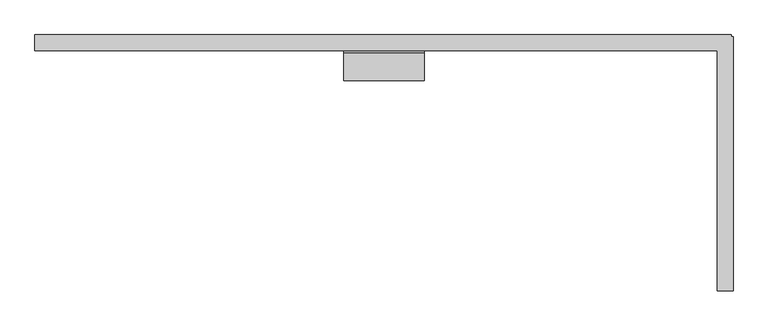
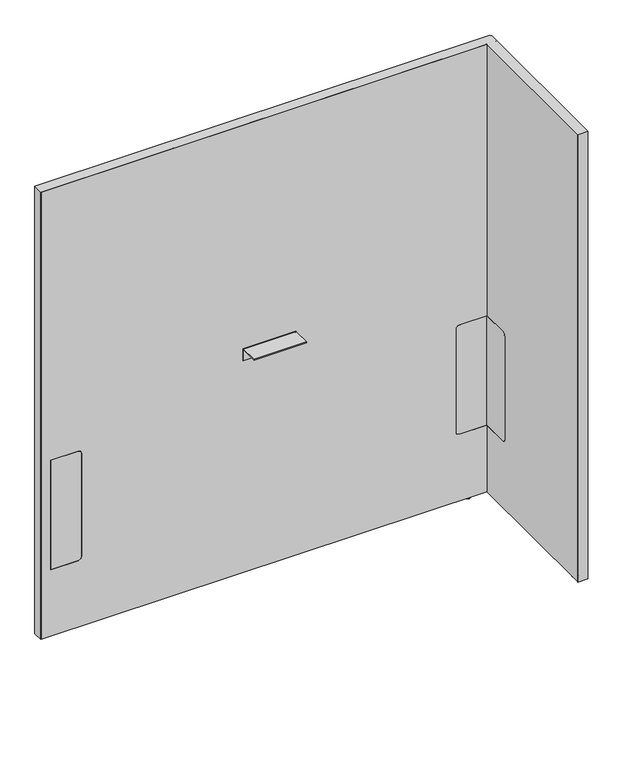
"""IFC4 building model written with IfcOpenShell, lengths in millimetres: furniture geometry, Steelcase - Answer Solution - Boundary Screen - L Return - Single Sided : 54H x 51W."""

from ifc_helpers import new_model, si_unit, point, frame, frame_2d, origin, place, context, project, spatial, polyline, circle_curve, ellipse_curve, trimmed, segment, composite_curve, outline, extrude, faceted_brep, source, transform, mapped, element, save
from ifc_brep_helpers import plane_surface, cylinder_surface, revolved_surface, advanced_brep


def furniture_fe9cea17(model_context):
    return source(origin(), model_context, "Body", "SolidModel", [
        extrude(outline(composite_curve([segment(polyline([(-109.3501471, 549.6162029), (-29.0550397, 549.6162029), (-29.0550397, 213.7762137), (-109.3501471, 213.7762137)]), True, "CONTINUOUS"), segment(trimmed(circle_curve(frame_2d((-109.3501471, 223.9362137)), 10.16), [point((-109.3501471, 213.7762137))], [point((-119.5101471, 223.9362137))], False, "CARTESIAN"), True, "CONTINUOUS"), segment(polyline([(-119.5101471, 223.9362137), (-119.5101471, 539.4562029)]), True, "CONTINUOUS"), segment(trimmed(circle_curve(frame_2d((-109.3501471, 539.4562029)), 10.16), [point((-119.5101471, 539.4562029))], [point((-109.3501471, 549.6162029))], False, "CARTESIAN"), True, "CONTINUOUS")], self_intersect=False)), frame((1525.2191891, 0.0, 0.0), z_axis=(1.0, 0.0, 0.0), x_axis=(0.0, 1.0, 0.0)), (0.0, 0.0, 1.0), 0.6401544),
        advanced_brep(
        [(1540.0672074, -448.0136072, 0.0), (1547.0216144, -448.0136072, 0.0), (1533.1128003, -448.0136072, 0.0), (1548.4762685, -448.0136072, 1.2700001), (1531.6581463, -448.0136072, 1.2700001), (1548.4762685, -448.0136072, 2.9673238), (1531.6581463, -448.0136072, 2.9673238), (1549.4427877, -448.0136072, 2.9673238), (1530.691627, -448.0136072, 2.9673238), (1549.4427877, -448.0136072, 9.9059849), (1530.691627, -448.0136072, 9.9059849), (1540.0672074, -448.0136072, 9.9059849)],
        [
            (0, 1),
            (1, 2, circle_curve(frame((1540.0672074, -448.0136072, 0.0), z_axis=(0.0, 0.0, -1.0), x_axis=(1.0, 0.0, 0.0)), 6.9544071)),
            (2, 0),
            (2, 1, circle_curve(frame((1540.0672074, -448.0136072, 0.0), z_axis=(0.0, 0.0, -1.0), x_axis=(1.0, 0.0, 0.0)), 6.9544071)),
            (1, 3, circle_curve(frame((1547.1945484, -448.0136072, 1.2700001), z_axis=(0.0, -1.0, 0.0), x_axis=(0.0, 0.0, 1.0)), 1.2817201)),
            (3, 4, circle_curve(frame((1540.0672074, -448.0136072, 1.2700001), z_axis=(0.0, 0.0, -1.0), x_axis=(1.0, 0.0, 0.0)), 8.4090611)),
            (4, 2, circle_curve(frame((1532.9398663, -448.0136072, 1.2700001), z_axis=(0.0, -1.0, 0.0), x_axis=(0.0, 0.0, 1.0)), 1.2817201)),
            (4, 3, circle_curve(frame((1540.0672074, -448.0136072, 1.2700001), z_axis=(0.0, 0.0, -1.0), x_axis=(1.0, 0.0, 0.0)), 8.4090611)),
            (3, 5),
            (5, 6, circle_curve(frame((1540.0672074, -448.0136072, 2.9673238), z_axis=(0.0, 0.0, -1.0), x_axis=(1.0, 0.0, 0.0)), 8.4090611)),
            (6, 4),
            (6, 5, circle_curve(frame((1540.0672074, -448.0136072, 2.9673238), z_axis=(0.0, 0.0, -1.0), x_axis=(1.0, 0.0, 0.0)), 8.4090611)),
            (5, 7),
            (7, 8, circle_curve(frame((1540.0672074, -448.0136072, 2.9673238), z_axis=(0.0, 0.0, -1.0), x_axis=(1.0, 0.0, 0.0)), 9.3755804)),
            (8, 6),
            (8, 7, circle_curve(frame((1540.0672074, -448.0136072, 2.9673238), z_axis=(0.0, 0.0, -1.0), x_axis=(1.0, 0.0, 0.0)), 9.3755804)),
            (7, 9),
            (9, 10, circle_curve(frame((1540.0672074, -448.0136072, 9.9059849), z_axis=(0.0, 0.0, -1.0), x_axis=(1.0, 0.0, 0.0)), 9.3755804)),
            (10, 8),
            (10, 9, circle_curve(frame((1540.0672074, -448.0136072, 9.9059849), z_axis=(0.0, 0.0, -1.0), x_axis=(1.0, 0.0, 0.0)), 9.3755804)),
            (9, 11),
            (11, 10),
        ],
        [
            plane_surface(frame((1540.0672074, -448.0136072, 0.0), z_axis=(0.0, 0.0, -1.0), x_axis=(1.0, 0.0, 0.0))),
            revolved_surface(trimmed(ellipse_curve(frame((1547.1945484, -448.0136072, 1.2700001), z_axis=(0.0, 1.0, 0.0), x_axis=(0.0, 0.0, 1.0)), 1.2817201, 1.2817201), [point((1548.4762685, -448.0136072, 1.2700001))], [point((1547.0216144, -448.0136072, 0.0))], True, "CARTESIAN"), (1540.0672074, -448.0136072, 9.9059849), (0.0, 0.0, -1.0)),
            cylinder_surface(frame((1540.0672074, -448.0136072, 9.9059849), z_axis=(0.0, 0.0, -1.0), x_axis=(1.0, 0.0, 0.0)), 8.4090611),
            plane_surface(frame((1540.0672074, -448.0136072, 2.9673238), z_axis=(0.0, 0.0, -1.0), x_axis=(1.0, 0.0, 0.0))),
            cylinder_surface(frame((1540.0672074, -448.0136072, 9.9059849), z_axis=(0.0, 0.0, -1.0), x_axis=(1.0, 0.0, 0.0)), 9.3755804),
            plane_surface(frame((1540.0672074, -448.0136072, 9.9059849), z_axis=(0.0, 0.0, 1.0), x_axis=(1.0, 0.0, 0.0))),
        ],
        [
            (0, [[1, 2, 3]]),
            (0, [[-3, 4, -1]]),
            (1, [[-2, 5, 6, 7]]),
            (1, [[-4, -7, 8, -5]]),
            (2, [[-6, 9, 10, 11]]),
            (2, [[-8, -11, 12, -9]]),
            (3, [[-10, 13, 14, 15]]),
            (3, [[-12, -15, 16, -13]]),
            (4, [[-14, 17, 18, 19]]),
            (4, [[-16, -19, 20, -17]]),
            (5, [[-18, 21, 22]]),
            (5, [[-20, -22, -21]]),
        ],
    ),
        faceted_brep([(1551.6531179, 0.0, 1382.522), (1551.6531179, 0.0, 9.9059849), (1550.6621491, 0.0, 9.9059849), (1550.6621491, 0.0, 1381.542118), (230.8097779, 0.0, 1381.542118), (230.8097779, 0.0, 9.9059849), (229.8191891, 0.0, 9.9059849), (229.8191891, 0.0, 1382.522), (229.8191891, -29.6898332, 1382.522), (229.8191891, -29.6898332, 9.9059849), (230.8097779, -29.6898332, 9.9059849), (230.8097779, -29.6898332, 1381.542118), (1525.2191891, -29.6898332, 1381.542118), (1525.2191891, -29.6898332, 1382.522), (1550.6621491, -29.6898332, 1381.542118), (1550.6621491, -29.6898332, 9.9059849), (1551.6531179, -29.6898332, 9.9059849), (1551.6531179, -29.6898332, 1381.542118), (1551.6531179, -3.2625916, 1382.522), (1551.6531179, -3.2625916, 9.9059849), (1551.6531179, -4.252647, 9.9059849), (1551.6531179, -4.252647, 1381.542118), (1554.9152256, -3.2625916, 9.9059849), (1554.9152256, -4.252647, 9.9059849), (1550.6621491, -4.252647, 9.9059849), (1525.2191891, -4.252647, 9.9059849), (1525.2191891, -3.2625916, 9.9059849), (1550.6621491, -3.2625916, 9.9059849), (1525.2191891, -486.8898332, 1382.522), (1554.9152256, -486.8898332, 1382.522), (1554.9152256, -3.2625916, 1382.522), (1550.6621491, -3.2625916, 1381.542118), (1550.6621491, -4.252647, 1381.542118), (1525.2191891, -3.2625916, 1381.542118), (1525.2191891, -4.252647, 1381.542118), (1554.9152256, -4.252647, 1381.542118), (1554.9152256, -485.899196, 1381.542118), (1525.2191891, -485.899196, 1381.542118), (1525.2191891, -485.899196, 9.9059849), (1525.2191891, -486.8898332, 9.9059849), (1554.9152256, -486.8898332, 9.9059849), (1554.9152256, -485.899196, 9.9059849)], [[[0, 1, 2, 3, 4, 5, 6, 7]], [[8, 9, 10, 11, 12, 13]], [[14, 15, 16, 17]], [[1, 0, 18, 19]], [[17, 16, 20, 21]], [[2, 1, 19, 22, 23, 20, 16, 15, 24, 25, 26, 27]], [[7, 6, 9, 8]], [[0, 7, 8, 13, 28, 29, 30, 18]], [[3, 2, 27, 31]], [[15, 14, 32, 24]], [[4, 3, 31, 33, 34, 32, 14, 17, 21, 35, 36, 37, 12, 11]], [[5, 4, 11, 10]], [[6, 5, 10, 9]], [[26, 25, 34, 33]], [[37, 38, 39, 28, 13, 12]], [[29, 40, 41, 36, 35, 23, 22, 30]], [[27, 26, 33, 31]], [[30, 22, 19, 18]], [[34, 25, 24, 32]], [[23, 35, 21, 20]], [[38, 37, 36, 41]], [[39, 38, 41, 40]], [[28, 39, 40, 29]]]),
        extrude(outline(composite_curve([segment(polyline([(-86.8398151, 696.4680019), (-86.8398151, 698.5), (-34.9450855, 698.5)]), True, "CONTINUOUS"), segment(trimmed(circle_curve(frame_2d((-34.9450855, 693.2447477)), 5.2552523), [point((-34.9450855, 698.5))], [point((-29.6898332, 693.2447477))], False, "CARTESIAN"), True, "CONTINUOUS"), segment(polyline([(-29.6898332, 693.2447477), (-29.6898332, 660.4), (-31.7218162, 660.4), (-31.7218162, 693.0058743)]), True, "CONTINUOUS"), segment(trimmed(circle_curve(frame_2d((-35.1839438, 693.0058743)), 3.4621276), [point((-31.7218162, 693.0058743))], [point((-35.1839438, 696.4680019))], True, "CARTESIAN"), True, "CONTINUOUS"), segment(polyline([(-35.1839438, 696.4680019), (-86.8398151, 696.4680019)]), True, "CONTINUOUS")], self_intersect=False)), frame((816.1685899, 0.0, 0.0), z_axis=(1.0, 0.0, 0.0), x_axis=(0.0, 1.0, 0.0)), (0.0, 0.0, 1.0), 152.4000969),
        advanced_brep(
        [(1477.7246853, -23.7588726, 9.9059849), (1477.7246853, -5.9309607, 9.9059849), (1477.7246853, -14.8449166, 9.9059849), (1477.7246853, -23.7588726, 2.9673238), (1477.7246853, -5.9309607, 2.9673238), (1477.7246853, -22.7915354, 2.9673238), (1477.7246853, -6.8982978, 2.9673238), (1477.7246853, -22.7915354, 1.6569081), (1477.7246853, -6.8982978, 1.6569081), (1477.7246853, -21.1346274, 0.0), (1477.7246853, -8.5552059, 0.0), (1477.7246853, -14.8449166, 0.0)],
        [
            (0, 1, circle_curve(frame((1477.7246853, -14.8449166, 9.9059849), z_axis=(0.0, 0.0, 1.0), x_axis=(0.0, 1.0, 0.0)), 8.913956)),
            (1, 2),
            (2, 0),
            (1, 0, circle_curve(frame((1477.7246853, -14.8449166, 9.9059849), z_axis=(0.0, 0.0, 1.0), x_axis=(0.0, 1.0, 0.0)), 8.913956)),
            (3, 4, circle_curve(frame((1477.7246853, -14.8449166, 2.9673238), z_axis=(0.0, 0.0, 1.0), x_axis=(0.0, 1.0, 0.0)), 8.913956)),
            (4, 1),
            (0, 3),
            (4, 3, circle_curve(frame((1477.7246853, -14.8449166, 2.9673238), z_axis=(0.0, 0.0, 1.0), x_axis=(0.0, 1.0, 0.0)), 8.913956)),
            (5, 6, circle_curve(frame((1477.7246853, -14.8449166, 2.9673238), z_axis=(0.0, 0.0, 1.0), x_axis=(0.0, 1.0, 0.0)), 7.9466188)),
            (6, 4),
            (3, 5),
            (6, 5, circle_curve(frame((1477.7246853, -14.8449166, 2.9673238), z_axis=(0.0, 0.0, 1.0), x_axis=(0.0, 1.0, 0.0)), 7.9466188)),
            (7, 8, circle_curve(frame((1477.7246853, -14.8449166, 1.6569081), z_axis=(0.0, 0.0, 1.0), x_axis=(0.0, 1.0, 0.0)), 7.9466188)),
            (8, 6),
            (5, 7),
            (8, 7, circle_curve(frame((1477.7246853, -14.8449166, 1.6569081), z_axis=(0.0, 0.0, 1.0), x_axis=(0.0, 1.0, 0.0)), 7.9466188)),
            (9, 10, circle_curve(frame((1477.7246853, -14.8449166, 0.0), z_axis=(0.0, 0.0, 1.0), x_axis=(0.0, 1.0, 0.0)), 6.2897107)),
            (10, 8, circle_curve(frame((1477.7246853, -8.5552059, 1.6569081), z_axis=(1.0, 0.0, 0.0), x_axis=(0.0, 1.0, 0.0)), 1.6569081)),
            (7, 9, circle_curve(frame((1477.7246853, -21.1346274, 1.6569081), z_axis=(1.0, 0.0, 0.0), x_axis=(0.0, -1.0, 0.0)), 1.6569081)),
            (10, 9, circle_curve(frame((1477.7246853, -14.8449166, 0.0), z_axis=(0.0, 0.0, 1.0), x_axis=(0.0, 1.0, 0.0)), 6.2897107)),
            (11, 10),
            (9, 11),
        ],
        [
            plane_surface(frame((1477.7246853, -14.8449166, 9.9059849), z_axis=(0.0, 0.0, 1.0), x_axis=(0.0, 1.0, 0.0))),
            cylinder_surface(frame((1477.7246853, -14.8449166, 9.9059849), z_axis=(0.0, 0.0, -1.0), x_axis=(0.0, 1.0, 0.0)), 8.913956),
            plane_surface(frame((1477.7246853, -14.8449166, 2.9673238), z_axis=(0.0, 0.0, -1.0), x_axis=(0.0, 1.0, 0.0))),
            cylinder_surface(frame((1477.7246853, -14.8449166, 9.9059849), z_axis=(0.0, 0.0, -1.0), x_axis=(0.0, 1.0, 0.0)), 7.9466188),
            revolved_surface(trimmed(ellipse_curve(frame((1477.7246853, -8.5552059, 1.6569081), z_axis=(-1.0, 0.0, 0.0), x_axis=(0.0, 1.0, 0.0)), 1.6569081, 1.6569081), [point((1477.7246853, -6.8982978, 1.6569081))], [point((1477.7246853, -8.5552059, 0.0))], True, "CARTESIAN"), (1477.7246853, -14.8449166, 9.9059849), (0.0, 0.0, -1.0)),
            plane_surface(frame((1477.7246853, -14.8449166, 0.0), z_axis=(0.0, 0.0, -1.0), x_axis=(0.0, 1.0, 0.0))),
        ],
        [
            (0, [[1, 2, 3]]),
            (0, [[4, -3, -2]]),
            (1, [[5, 6, -1, 7]]),
            (1, [[8, -7, -4, -6]]),
            (2, [[9, 10, -5, 11]]),
            (2, [[12, -11, -8, -10]]),
            (3, [[13, 14, -9, 15]]),
            (3, [[16, -15, -12, -14]]),
            (4, [[17, 18, -13, 19]]),
            (4, [[20, -19, -16, -18]]),
            (5, [[21, -17, 22]]),
            (5, [[-22, -20, -21]]),
        ],
    ),
        advanced_brep(
        [(230.8097779, 0.0, 1381.542118), (1550.6621491, 0.0, 1381.542118), (1550.6621491, 0.0, 9.9059849), (230.8097779, 0.0, 9.9059849), (347.9483813, -29.0550397, 539.4562029), (337.7883813, -29.0550397, 549.6162029), (258.1344836, -29.0550397, 549.6162029), (258.1344836, -29.0550397, 213.7762137), (337.7883813, -29.0550397, 213.7762137), (347.9483813, -29.0550397, 223.9362137), (1525.8593435, -29.0550397, 213.7762137), (1525.8593435, -29.0550397, 549.6162029), (1445.3109268, -29.0550397, 549.6162029), (1435.1509268, -29.0550397, 539.4562029), (1435.1509268, -29.0550397, 223.9362137), (1445.3109268, -29.0550397, 213.7762137), (230.8097779, -29.6898332, 1381.542118), (230.8097779, -29.6898332, 9.9059849), (1525.2191891, -29.6898332, 9.9059849), (1525.2191891, -29.6898332, 213.7762137), (1445.3109268, -29.6898332, 213.7762137), (1435.1509268, -29.6898332, 223.9362137), (1435.1509268, -29.6898332, 539.4562029), (1445.3109268, -29.6898332, 549.6162029), (1525.2191891, -29.6898332, 549.6162029), (1525.2191891, -29.6898332, 1381.542118), (337.7883813, -29.6898332, 549.6162029), (347.9483813, -29.6898332, 539.4562029), (347.9483813, -29.6898332, 223.9362137), (337.7883813, -29.6898332, 213.7762137), (258.1344836, -29.6898332, 213.7762137), (258.1344836, -29.6898332, 549.6162029), (1550.6621491, -4.252647, 9.9059849), (1554.9152256, -4.252647, 9.9059849), (1554.9152256, -485.899196, 9.9059849), (1525.2191891, -485.899196, 9.9059849), (1550.6621491, -4.252647, 1381.542118), (1525.2191891, -485.899196, 1381.542118), (1554.9152256, -485.899196, 1381.542118), (1554.9152256, -4.252647, 1381.542118), (1525.8593435, -109.3501471, 549.6162029), (1525.2191891, -109.3501471, 549.6162029), (1525.8593435, -109.3501471, 213.7762137), (1525.8593435, -119.5101471, 223.9362137), (1525.8593435, -119.5101471, 539.4562029), (1525.2191891, -109.3501471, 213.7762137), (1525.2191891, -119.5101471, 539.4562029), (1525.2191891, -119.5101471, 223.9362137)],
        [
            (0, 1),
            (1, 2),
            (2, 3),
            (3, 0),
            (4, 5, circle_curve(frame((337.7883813, -29.0550397, 539.4562029), z_axis=(0.0, -1.0, 0.0), x_axis=(0.0, 0.0, 1.0)), 10.16)),
            (5, 6),
            (6, 7),
            (7, 8),
            (8, 9, circle_curve(frame((337.7883813, -29.0550397, 223.9362137), z_axis=(0.0, -1.0, 0.0), x_axis=(0.0, 0.0, 1.0)), 10.16)),
            (9, 4),
            (10, 11),
            (11, 12),
            (12, 13, circle_curve(frame((1445.3109268, -29.0550397, 539.4562029), z_axis=(0.0, -1.0, 0.0), x_axis=(0.0, 0.0, 1.0)), 10.16)),
            (13, 14),
            (14, 15, circle_curve(frame((1445.3109268, -29.0550397, 223.9362137), z_axis=(0.0, -1.0, 0.0), x_axis=(0.0, 0.0, 1.0)), 10.16)),
            (15, 10),
            (16, 17),
            (17, 18),
            (18, 19),
            (19, 20),
            (20, 21, circle_curve(frame((1445.3109268, -29.6898332, 223.9362137), z_axis=(0.0, 1.0, 0.0), x_axis=(0.0, 0.0, 1.0)), 10.16)),
            (21, 22),
            (22, 23, circle_curve(frame((1445.3109268, -29.6898332, 539.4562029), z_axis=(0.0, 1.0, 0.0), x_axis=(0.0, 0.0, 1.0)), 10.16)),
            (23, 24),
            (24, 25),
            (25, 16),
            (26, 27, circle_curve(frame((337.7883813, -29.6898332, 539.4562029), z_axis=(0.0, 1.0, 0.0), x_axis=(0.0, 0.0, 1.0)), 10.16)),
            (27, 28),
            (28, 29, circle_curve(frame((337.7883813, -29.6898332, 223.9362137), z_axis=(0.0, 1.0, 0.0), x_axis=(0.0, 0.0, 1.0)), 10.16)),
            (29, 30),
            (30, 31),
            (31, 26),
            (16, 0),
            (3, 17),
            (2, 32),
            (32, 33),
            (33, 34),
            (34, 35),
            (35, 18),
            (1, 36),
            (36, 32),
            (25, 37),
            (37, 38),
            (38, 39),
            (39, 36),
            (26, 5),
            (4, 27),
            (9, 28),
            (8, 29),
            (7, 30),
            (6, 31),
            (11, 40),
            (40, 41),
            (41, 24),
            (23, 12),
            (42, 43, circle_curve(frame((1525.8593435, -109.3501471, 223.9362137), z_axis=(-1.0, 0.0, 0.0), x_axis=(0.0, 1.0, 0.0)), 10.16)),
            (43, 44),
            (44, 40, circle_curve(frame((1525.8593435, -109.3501471, 539.4562029), z_axis=(-1.0, 0.0, 0.0), x_axis=(0.0, 1.0, 0.0)), 10.16)),
            (10, 42),
            (15, 20),
            (19, 45),
            (45, 42),
            (14, 21),
            (13, 22),
            (35, 37),
            (41, 46, circle_curve(frame((1525.2191891, -109.3501471, 539.4562029), z_axis=(1.0, 0.0, 0.0), x_axis=(0.0, 1.0, 0.0)), 10.16)),
            (46, 47),
            (47, 45, circle_curve(frame((1525.2191891, -109.3501471, 223.9362137), z_axis=(1.0, 0.0, 0.0), x_axis=(0.0, 1.0, 0.0)), 10.16)),
            (38, 34),
            (33, 39),
            (44, 46),
            (43, 47),
        ],
        [
            plane_surface(frame((347.9483813, 0.0, 549.6162029), z_axis=(0.0, 1.0, 0.0), x_axis=(0.0, 0.0, -1.0))),
            plane_surface(frame((347.9483813, -29.0550397, 549.6162029), z_axis=(0.0, -1.0, 0.0), x_axis=(0.0, 0.0, 1.0))),
            plane_surface(frame((1550.6621491, -29.6898332, 1381.542118), z_axis=(0.0, -1.0, 0.0), x_axis=(-1.0, 0.0, 0.0))),
            plane_surface(frame((230.8097779, 0.0, 9.9059849), z_axis=(-1.0, 0.0, 0.0), x_axis=(0.0, -1.0, 0.0))),
            plane_surface(frame((1550.6621491, 0.0, 9.9059849), z_axis=(0.0, 0.0, -1.0), x_axis=(0.0, -1.0, 0.0))),
            plane_surface(frame((1550.6621491, 0.0, 1381.542118), z_axis=(1.0, 0.0, 0.0), x_axis=(0.0, -1.0, 0.0))),
            plane_surface(frame((230.8097779, 0.0, 1381.542118), z_axis=(0.0, 0.0, 1.0), x_axis=(0.0, -1.0, 0.0))),
            revolved_surface(polyline([(337.7883813, -29.6898332, 549.6162029), (337.7883813, -29.0550397, 549.6162029)]), (337.7883813, -29.6898332, 539.4562029), (0.0, -1.0, 0.0)),
            plane_surface(frame((347.9483813, 0.0, 223.9362137), z_axis=(-1.0, 0.0, 0.0), x_axis=(0.0, -1.0, 0.0))),
            revolved_surface(polyline([(337.7883813, -29.6898332, 234.0962137), (337.7883813, -29.0550397, 234.0962137)]), (337.7883813, -29.6898332, 223.9362137), (0.0, -1.0, 0.0)),
            plane_surface(frame((258.1344836, 0.0, 213.7762137), z_axis=(0.0, 0.0, 1.0), x_axis=(0.0, -1.0, 0.0))),
            plane_surface(frame((258.1344836, 0.0, 549.6162029), z_axis=(1.0, 0.0, 0.0), x_axis=(0.0, -1.0, 0.0))),
            plane_surface(frame((337.7883813, 0.0, 549.6162029), z_axis=(0.0, 0.0, -1.0), x_axis=(0.0, -1.0, 0.0))),
            plane_surface(frame((1525.8593435, 0.0, 549.6162029), z_axis=(0.0, 0.0, -1.0), x_axis=(0.0, -1.0, 0.0))),
            plane_surface(frame((1525.8593435, 0.0, 213.7762137), z_axis=(-1.0, 0.0, 0.0), x_axis=(0.0, -1.0, 0.0))),
            plane_surface(frame((1445.3109268, 0.0, 213.7762137), z_axis=(0.0, 0.0, 1.0), x_axis=(0.0, -1.0, 0.0))),
            revolved_surface(polyline([(1445.3109268, -29.6898332, 234.0962137), (1445.3109268, -29.0550397, 234.0962137)]), (1445.3109268, -29.6898332, 223.9362137), (0.0, -1.0, 0.0)),
            plane_surface(frame((1435.1509268, 0.0, 539.4562029), z_axis=(1.0, 0.0, 0.0), x_axis=(0.0, -1.0, 0.0))),
            revolved_surface(polyline([(1445.3109268, -29.6898332, 549.6162029), (1445.3109268, -29.0550397, 549.6162029)]), (1445.3109268, -29.6898332, 539.4562029), (0.0, -1.0, 0.0)),
            plane_surface(frame((1525.2191891, -485.899196, 1381.542118), z_axis=(-1.0, 0.0, 0.0), x_axis=(0.0, 0.0, 1.0))),
            plane_surface(frame((1554.9152256, -485.899196, 1381.542118), z_axis=(1.0, 0.0, 0.0), x_axis=(0.0, 0.0, -1.0))),
            plane_surface(frame((1554.9152256, -4.252647, 9.9059849), z_axis=(0.0, 1.0, 0.0), x_axis=(-1.0, 0.0, 0.0))),
            plane_surface(frame((1554.9152256, -485.899196, 1381.542118), z_axis=(0.0, -1.0, 0.0), x_axis=(-1.0, 0.0, 0.0))),
            revolved_surface(polyline([(1525.2191891, -99.1901471, 539.4562029), (1525.8593435, -99.1901471, 539.4562029)]), (-340.6902705, -109.3501471, 539.4562029), (-1.0, 0.0, 0.0)),
            plane_surface(frame((1554.9152256, -119.5101471, 223.9362137), z_axis=(0.0, 1.0, 0.0), x_axis=(-1.0, 0.0, 0.0))),
            revolved_surface(polyline([(1525.2191891, -99.1901471, 223.9362137), (1525.8593435, -99.1901471, 223.9362137)]), (-340.6902705, -109.3501471, 223.9362137), (-1.0, 0.0, 0.0)),
        ],
        [
            (0, [[1, 2, 3, 4]]),
            (1, [[5, 6, 7, 8, 9, 10]]),
            (1, [[11, 12, 13, 14, 15, 16]]),
            (2, [[17, 18, 19, 20, 21, 22, 23, 24, 25, 26], [27, 28, 29, 30, 31, 32]]),
            (3, [[-17, 33, -4, 34]]),
            (4, [[-3, 35, 36, 37, 38, 39, -18, -34]]),
            (5, [[-2, 40, 41, -35]]),
            (6, [[-1, -33, -26, 42, 43, 44, 45, -40]]),
            (7, [[-27, 46, -5, 47]]),
            (8, [[-28, -47, -10, 48]]),
            (9, [[-29, -48, -9, 49]]),
            (10, [[-30, -49, -8, 50]]),
            (11, [[-31, -50, -7, 51]]),
            (12, [[-32, -51, -6, -46]]),
            (13, [[52, 53, 54, -24, 55, -12]]),
            (14, [[56, 57, 58, -52, -11, 59]]),
            (15, [[-59, -16, 60, -20, 61, 62]]),
            (16, [[-21, -60, -15, 63]]),
            (17, [[-22, -63, -14, 64]]),
            (18, [[-23, -64, -13, -55]]),
            (19, [[65, -42, -25, -54, 66, 67, 68, -61, -19, -39]]),
            (20, [[69, -37, 70, -44]]),
            (21, [[-70, -36, -41, -45]]),
            (22, [[-65, -38, -69, -43]]),
            (23, [[-66, -53, -58, 71]]),
            (24, [[-67, -71, -57, 72]]),
            (25, [[-68, -72, -56, -62]]),
        ],
    ),
        extrude(outline(composite_curve([segment(polyline([(549.6162029, 337.7883813), (549.6162029, 258.1344836), (213.7762137, 258.1344836), (213.7762137, 337.7883813)]), True, "CONTINUOUS"), segment(trimmed(circle_curve(frame_2d((223.9362137, 337.7883813)), 10.16), [point((213.7762137, 337.7883813))], [point((223.9362137, 347.9483813))], False, "CARTESIAN"), True, "CONTINUOUS"), segment(polyline([(223.9362137, 347.9483813), (539.4562029, 347.9483813)]), True, "CONTINUOUS"), segment(trimmed(circle_curve(frame_2d((539.4562029, 337.7883813)), 10.16), [point((539.4562029, 347.9483813))], [point((549.6162029, 337.7883813))], False, "CARTESIAN"), True, "CONTINUOUS")], self_intersect=False)), frame((0.0, -29.6898332, 0.0), z_axis=(0.0, 1.0, 0.0), x_axis=(0.0, 0.0, 1.0)), (0.0, 0.0, 1.0), 0.6347935),
        extrude(outline(composite_curve([segment(trimmed(circle_curve(frame_2d((539.4562029, 1445.3109268)), 10.16), [point((549.6162029, 1445.3109268))], [point((539.4562029, 1435.1509268))], False, "CARTESIAN"), True, "CONTINUOUS"), segment(polyline([(539.4562029, 1435.1509268), (223.9362137, 1435.1509268)]), True, "CONTINUOUS"), segment(trimmed(circle_curve(frame_2d((223.9362137, 1445.3109268)), 10.16), [point((223.9362137, 1435.1509268))], [point((213.7762137, 1445.3109268))], False, "CARTESIAN"), True, "CONTINUOUS"), segment(polyline([(213.7762137, 1445.3109268), (213.7762137, 1525.2191891), (549.6162029, 1525.2191891), (549.6162029, 1445.3109268)]), True, "CONTINUOUS")], self_intersect=False)), frame((0.0, -29.6898332, 0.0), z_axis=(0.0, 1.0, 0.0), x_axis=(0.0, 0.0, 1.0)), (0.0, 0.0, 1.0), 0.6347935),
    ])


if __name__ == "__main__":
    model = new_model("IFC4")
    model_context = context("Model", 3, world=origin())
    ifc_project = project(units=[si_unit("LENGTHUNIT", "METRE", prefix="MILLI")], contexts=[model_context])
    site = spatial("IfcSite", under=ifc_project)
    building = spatial("IfcBuilding", under=site)
    placement = place(None, origin())
    furniture_shape = furniture_fe9cea17(model_context)
    element("IfcFurniture", 1, ObjectType="Steelcase - Answer Solution - Boundary Screen - L Return - Single Sided : 54H x 51W", at=placement, inside=building, context=model_context, shape_type="MappedRepresentation", body=[
        mapped(furniture_shape, transform((0.0, 0.0, 0.0), x_axis=(1.0, 0.0, 0.0), y_axis=(0.0, 1.0, 0.0), z_axis=(0.0, 0.0, 1.0))),
    ])
    save(model, "model.ifc")
